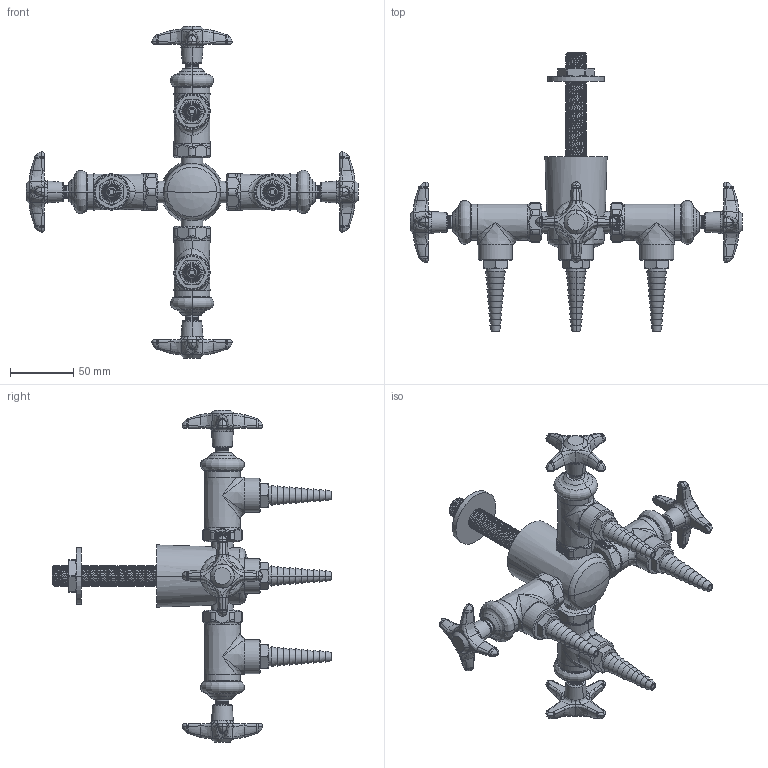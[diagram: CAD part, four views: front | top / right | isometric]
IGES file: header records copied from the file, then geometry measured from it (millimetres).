
Start section:  PTC IGES file: LWV2-C13-40.igs
Global section: file name: LWV2-C13-40.igs; native system: Creo Parametric by PTC Inc.; preprocessor: 2014500; author: usch_engrender; organization: Unknown; date: 20151117.102550; units: inch
Bounding box: 261.52 x 220.37 x 261.52 mm (x, y, z)
Volume: 367463.5 mm3; surface area: 119934 mm2
Topology: 1 solids, 10 shells, 2426 faces, 5579 edges, 3275 vertices
Faces by surface type: bspline 1329, revolution 1097
